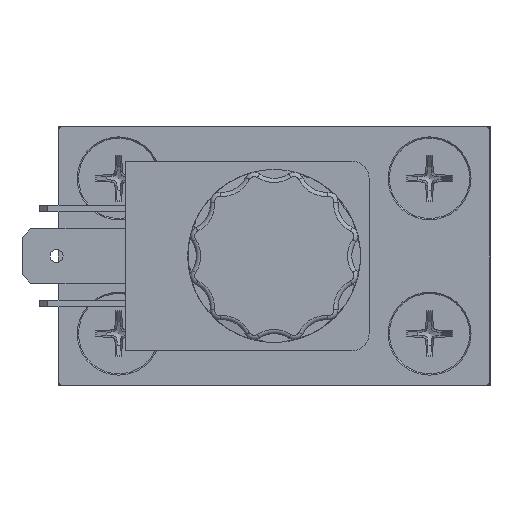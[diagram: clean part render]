
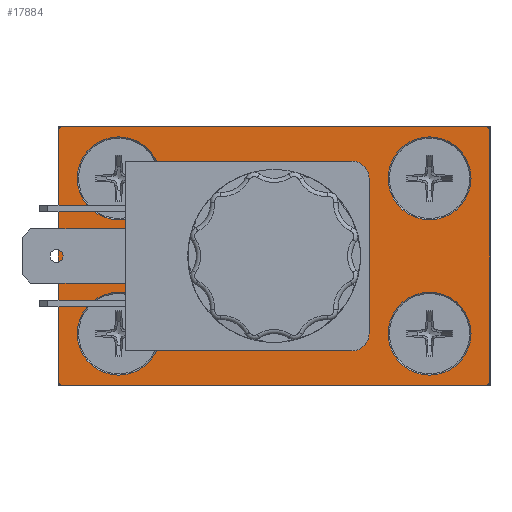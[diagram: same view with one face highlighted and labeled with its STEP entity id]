
A CAD part, left-side view. The second image highlights one B-rep face of the part: STEP entity #17884.
In plain terms, the highlighted planar face has unit normal (-1, 0, 0).
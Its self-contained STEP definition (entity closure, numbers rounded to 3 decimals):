
#77 = CARTESIAN_POINT ( 'NONE',  ( -60.5, 24.5, 0.5 ) ) ;
#79 = DIRECTION ( 'NONE',  ( 1., 0., 0. ) ) ;
#80 = DIRECTION ( 'NONE',  ( 0., 0.707, -0.707 ) ) ;
#81 = CARTESIAN_POINT ( 'NONE',  ( -60.5, 24.5, 29.5 ) ) ;
#82 = DIRECTION ( 'NONE',  ( 1., 0., 0. ) ) ;
#83 = DIRECTION ( 'NONE',  ( 0., 0.707, 0.707 ) ) ;
#170 = CARTESIAN_POINT ( 'NONE',  ( -60.5, -24.5, 0. ) ) ;
#171 = DIRECTION ( 'NONE',  ( 0., 1., 0. ) ) ;
#185 = CARTESIAN_POINT ( 'NONE',  ( -60.5, -24.5, 29.5 ) ) ;
#208 = DIRECTION ( 'NONE',  ( 1., 0., 0. ) ) ;
#209 = DIRECTION ( 'NONE',  ( 0., -0.707, 0.707 ) ) ;
#212 = CARTESIAN_POINT ( 'NONE',  ( -60.5, 18., 24. ) ) ;
#218 = DIRECTION ( 'NONE',  ( 1., 0., 0. ) ) ;
#219 = DIRECTION ( 'NONE',  ( 0., 1., 0. ) ) ;
#233 = CARTESIAN_POINT ( 'NONE',  ( -60.5, 25., 0.5 ) ) ;
#234 = DIRECTION ( 'NONE',  ( 0., 0., 1. ) ) ;
#524 = FACE_BOUND ( 'NONE', #28813, .T. ) ;
#526 = FACE_BOUND ( 'NONE', #28807, .T. ) ;
#530 = FACE_OUTER_BOUND ( 'NONE', #28785, .T. ) ;
#535 = FACE_BOUND ( 'NONE', #28815, .T. ) ;
#537 = FACE_BOUND ( 'NONE', #28809, .T. ) ;
#539 = FACE_BOUND ( 'NONE', #28811, .T. ) ;
#715 = CARTESIAN_POINT ( 'NONE',  ( -60.5, 0., 15. ) ) ;
#723 = PLANE ( 'NONE',  #42278 ) ;
#735 = DIRECTION ( 'NONE',  ( 1., 0., 0. ) ) ;
#736 = DIRECTION ( 'NONE',  ( 0., 0.707, 0.707 ) ) ;
#6437 = AXIS2_PLACEMENT_3D ( 'NONE', #8702, #8723, #8724 ) ;
#6571 = AXIS2_PLACEMENT_3D ( 'NONE', #8862, #8876, #8877 ) ;
#6573 = AXIS2_PLACEMENT_3D ( 'NONE', #8880, #8883, #8884 ) ;
#6574 = AXIS2_PLACEMENT_3D ( 'NONE', #8908, #8953, #8954 ) ;
#6576 = AXIS2_PLACEMENT_3D ( 'NONE', #8963, #8973, #8974 ) ;
#7334 = LINE ( 'NONE', #8717, #7367 ) ;
#7367 = VECTOR ( 'NONE', #8718, 1000. ) ;
#7375 = CIRCLE ( 'NONE', #6437, 4.52 ) ;
#7463 = LINE ( 'NONE', #8837, #7472 ) ;
#7472 = VECTOR ( 'NONE', #8838, 1000. ) ;
#7508 = CIRCLE ( 'NONE', #6571, 4.8 ) ;
#7512 = CIRCLE ( 'NONE', #6573, 4.8 ) ;
#7563 = CIRCLE ( 'NONE', #6574, 0.5 ) ;
#7579 = CIRCLE ( 'NONE', #6576, 4.8 ) ;
#8702 = CARTESIAN_POINT ( 'NONE',  ( -60.5, 0., 15. ) ) ;
#8717 = CARTESIAN_POINT ( 'NONE',  ( -60.5, -25., 29.5 ) ) ;
#8718 = DIRECTION ( 'NONE',  ( 0., 0., -1. ) ) ;
#8723 = DIRECTION ( 'NONE',  ( 1., 0., 0. ) ) ;
#8724 = DIRECTION ( 'NONE',  ( 0., 1., 0. ) ) ;
#8837 = CARTESIAN_POINT ( 'NONE',  ( -60.5, 24.5, 30. ) ) ;
#8838 = DIRECTION ( 'NONE',  ( 0., -1., 0. ) ) ;
#8862 = CARTESIAN_POINT ( 'NONE',  ( -60.5, 18., 6. ) ) ;
#8876 = DIRECTION ( 'NONE',  ( 1., 0., 0. ) ) ;
#8877 = DIRECTION ( 'NONE',  ( 0., 1., 0. ) ) ;
#8880 = CARTESIAN_POINT ( 'NONE',  ( -60.5, -18., 6. ) ) ;
#8883 = DIRECTION ( 'NONE',  ( 1., 0., 0. ) ) ;
#8884 = DIRECTION ( 'NONE',  ( 0., 1., 0. ) ) ;
#8908 = CARTESIAN_POINT ( 'NONE',  ( -60.5, -24.5, 0.5 ) ) ;
#8953 = DIRECTION ( 'NONE',  ( 1., 0., 0. ) ) ;
#8954 = DIRECTION ( 'NONE',  ( 0., -0.707, -0.707 ) ) ;
#8963 = CARTESIAN_POINT ( 'NONE',  ( -60.5, -18., 24. ) ) ;
#8973 = DIRECTION ( 'NONE',  ( 1., 0., 0. ) ) ;
#8974 = DIRECTION ( 'NONE',  ( 0., 1., 0. ) ) ;
#10891 = CARTESIAN_POINT ( 'NONE',  ( -60.5, 24.5, 0. ) ) ;
#10892 = CARTESIAN_POINT ( 'NONE',  ( -60.5, 25., 0.5 ) ) ;
#10893 = CARTESIAN_POINT ( 'NONE',  ( -60.5, -24.5, 0. ) ) ;
#10894 = CARTESIAN_POINT ( 'NONE',  ( -60.5, -25., 0.5 ) ) ;
#10895 = CARTESIAN_POINT ( 'NONE',  ( -60.5, -25., 29.5 ) ) ;
#10896 = CARTESIAN_POINT ( 'NONE',  ( -60.5, -24.5, 30. ) ) ;
#10897 = CARTESIAN_POINT ( 'NONE',  ( -60.5, 24.5, 30. ) ) ;
#10898 = CARTESIAN_POINT ( 'NONE',  ( -60.5, 25., 29.5 ) ) ;
#16965 = EDGE_CURVE ( 'NONE', #26252, #26253, #41876, .T. ) ;
#16966 = EDGE_CURVE ( 'NONE', #26259, #26258, #41878, .T. ) ;
#17008 = EDGE_CURVE ( 'NONE', #26254, #26252, #41956, .T. ) ;
#17026 = EDGE_CURVE ( 'NONE', #26257, #26256, #41993, .T. ) ;
#17031 = EDGE_CURVE ( 'NONE', #39687, #39687, #42002, .T. ) ;
#17038 = EDGE_CURVE ( 'NONE', #26253, #26259, #42013, .T. ) ;
#17884 = ADVANCED_FACE ( 'NONE', ( #530, #526, #537, #539, #524, #535 ), #723, .F. ) ;
#25377 = EDGE_CURVE ( 'NONE', #26256, #26255, #7334, .T. ) ;
#25381 = EDGE_CURVE ( 'NONE', #39693, #39693, #7375, .T. ) ;
#25457 = EDGE_CURVE ( 'NONE', #26258, #26257, #7463, .T. ) ;
#25481 = EDGE_CURVE ( 'NONE', #39705, #39705, #7508, .T. ) ;
#25487 = EDGE_CURVE ( 'NONE', #39707, #39707, #7512, .T. ) ;
#25524 = EDGE_CURVE ( 'NONE', #26255, #26254, #7563, .T. ) ;
#25539 = EDGE_CURVE ( 'NONE', #39715, #39715, #7579, .T. ) ;
#26252 = VERTEX_POINT ( 'NONE', #10891 ) ;
#26253 = VERTEX_POINT ( 'NONE', #10892 ) ;
#26254 = VERTEX_POINT ( 'NONE', #10893 ) ;
#26255 = VERTEX_POINT ( 'NONE', #10894 ) ;
#26256 = VERTEX_POINT ( 'NONE', #10895 ) ;
#26257 = VERTEX_POINT ( 'NONE', #10896 ) ;
#26258 = VERTEX_POINT ( 'NONE', #10897 ) ;
#26259 = VERTEX_POINT ( 'NONE', #10898 ) ;
#28785 = EDGE_LOOP ( 'NONE', ( #31617, #31602, #31598, #31595, #31593, #31591, #31589, #31587 ) ) ;
#28807 = EDGE_LOOP ( 'NONE', ( #31585 ) ) ;
#28809 = EDGE_LOOP ( 'NONE', ( #31581 ) ) ;
#28811 = EDGE_LOOP ( 'NONE', ( #31571 ) ) ;
#28813 = EDGE_LOOP ( 'NONE', ( #31569 ) ) ;
#28815 = EDGE_LOOP ( 'NONE', ( #31567 ) ) ;
#31567 = ORIENTED_EDGE ( 'NONE', *, *, #25381, .T. ) ;
#31569 = ORIENTED_EDGE ( 'NONE', *, *, #17031, .T. ) ;
#31571 = ORIENTED_EDGE ( 'NONE', *, *, #25487, .T. ) ;
#31581 = ORIENTED_EDGE ( 'NONE', *, *, #25481, .T. ) ;
#31585 = ORIENTED_EDGE ( 'NONE', *, *, #25539, .T. ) ;
#31587 = ORIENTED_EDGE ( 'NONE', *, *, #17038, .F. ) ;
#31589 = ORIENTED_EDGE ( 'NONE', *, *, #16966, .F. ) ;
#31591 = ORIENTED_EDGE ( 'NONE', *, *, #25457, .F. ) ;
#31593 = ORIENTED_EDGE ( 'NONE', *, *, #17026, .F. ) ;
#31595 = ORIENTED_EDGE ( 'NONE', *, *, #25377, .F. ) ;
#31598 = ORIENTED_EDGE ( 'NONE', *, *, #25524, .F. ) ;
#31602 = ORIENTED_EDGE ( 'NONE', *, *, #17008, .F. ) ;
#31617 = ORIENTED_EDGE ( 'NONE', *, *, #16965, .F. ) ;
#39687 = VERTEX_POINT ( 'NONE', #39688 ) ;
#39688 = CARTESIAN_POINT ( 'NONE',  ( -60.5, 22.8, 24. ) ) ;
#39693 = VERTEX_POINT ( 'NONE', #39694 ) ;
#39694 = CARTESIAN_POINT ( 'NONE',  ( -60.5, 4.52, 15. ) ) ;
#39705 = VERTEX_POINT ( 'NONE', #39706 ) ;
#39706 = CARTESIAN_POINT ( 'NONE',  ( -60.5, 22.8, 6. ) ) ;
#39707 = VERTEX_POINT ( 'NONE', #39708 ) ;
#39708 = CARTESIAN_POINT ( 'NONE',  ( -60.5, -13.2, 6. ) ) ;
#39715 = VERTEX_POINT ( 'NONE', #39716 ) ;
#39716 = CARTESIAN_POINT ( 'NONE',  ( -60.5, -13.2, 24. ) ) ;
#41876 = CIRCLE ( 'NONE', #42185, 0.5 ) ;
#41878 = CIRCLE ( 'NONE', #42193, 0.5 ) ;
#41956 = LINE ( 'NONE', #170, #41957 ) ;
#41957 = VECTOR ( 'NONE', #171, 1000. ) ;
#41993 = CIRCLE ( 'NONE', #42202, 0.5 ) ;
#42002 = CIRCLE ( 'NONE', #42195, 4.8 ) ;
#42013 = LINE ( 'NONE', #233, #42014 ) ;
#42014 = VECTOR ( 'NONE', #234, 1000. ) ;
#42185 = AXIS2_PLACEMENT_3D ( 'NONE', #77, #79, #80 ) ;
#42193 = AXIS2_PLACEMENT_3D ( 'NONE', #81, #82, #83 ) ;
#42195 = AXIS2_PLACEMENT_3D ( 'NONE', #212, #218, #219 ) ;
#42202 = AXIS2_PLACEMENT_3D ( 'NONE', #185, #208, #209 ) ;
#42278 = AXIS2_PLACEMENT_3D ( 'NONE', #715, #735, #736 ) ;
